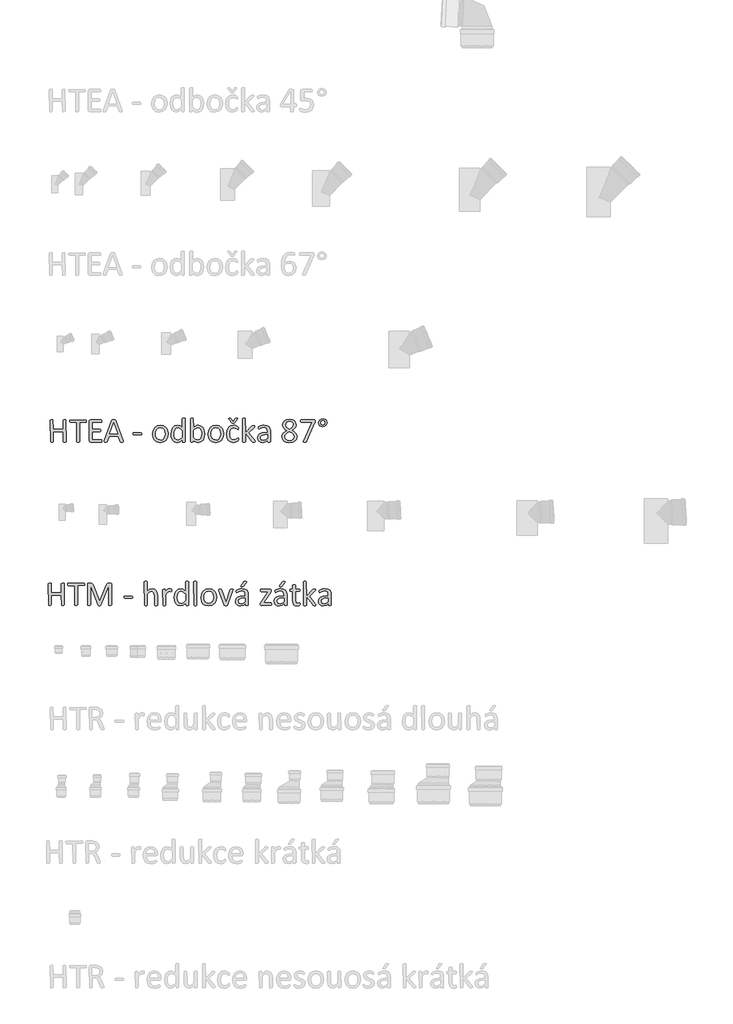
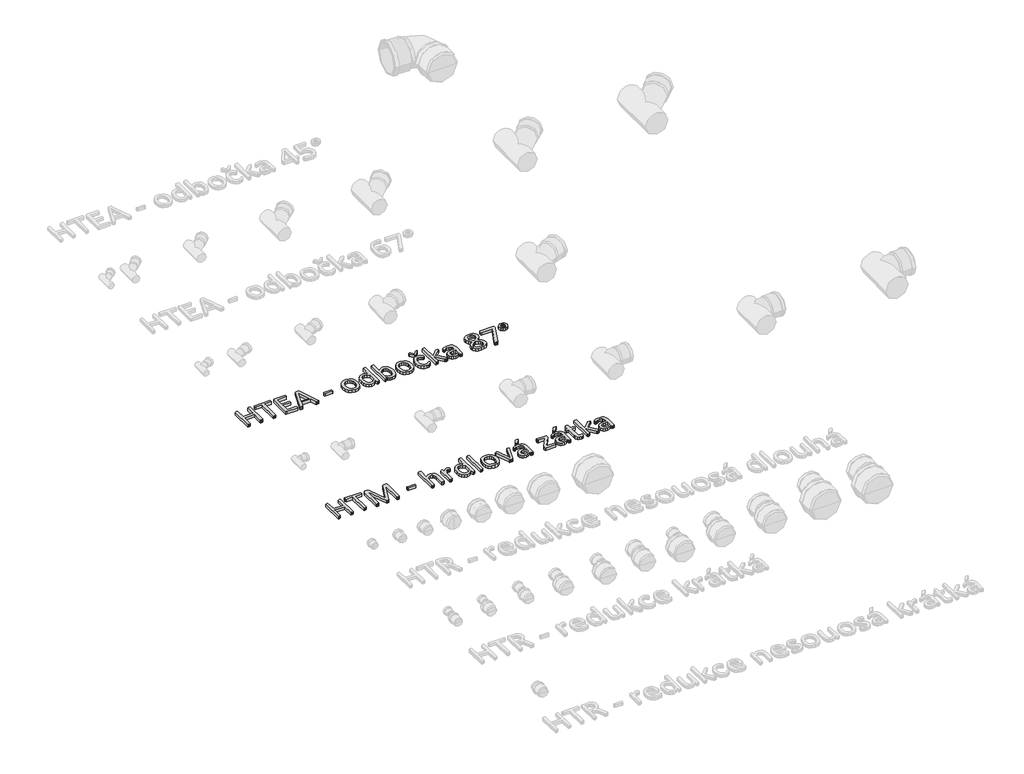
# One storey, part 22 of 26: 2 proxies.
"""IFC4 building model written with IfcOpenShell, lengths in millimetres."""

from ifc_helpers import new_model, si_unit, origin, origin_with_axes, place, context, project, spatial, polyline, outline, extrude, element, save

model = new_model("IFC4")

# Units and contexts
model_context = context("Model", 3, world=origin())
ifc_project = project(units=[si_unit("LENGTHUNIT", "METRE", prefix="MILLI")], contexts=[model_context])

# Site, building, storey
site = spatial("IfcSite", under=ifc_project)
building = spatial("IfcBuilding", under=site)
storey = spatial("IfcBuildingStorey", under=building, Name="Podlaží 1", Elevation=0.0)

# Proxies
placement = place(None, origin())
element("IfcBuildingElementProxy", 1, Name="120mm Arial", ObjectType="120mm Arial", at=placement, inside=storey, context=model_context, shape_type="SweptSolid", body=[
    extrude(outline(polyline([(-20460.0568259, 16129.2292998), (-20464.2728431, 16126.4970312), (-20468.1269704, 16126.2618027), (-20472.1077591, 16126.4970312), (-20474.5686103, 16127.039866), (-20476.2694928, 16181.848089), (-20529.5396837, 16181.848089), (-20529.5396837, 16129.1931108), (-20533.7376064, 16126.4970312), (-20537.6460171, 16126.2618027), (-20541.5182389, 16126.4970312), (-20544.0514681, 16127.0579605), (-20545.7523506, 16243.7312592), (-20541.5182389, 16246.4635278), (-20537.6460171, 16246.6987563), (-20533.7376064, 16246.4635278), (-20531.2405662, 16245.9025985), (-20529.5396837, 16195.7446605), (-20476.2694928, 16195.7446605), (-20476.2694928, 16243.7312592), (-20472.1077591, 16246.4635278), (-20468.1269704, 16246.6987563), (-20464.2728431, 16246.4635278), (-20461.7577084, 16245.9025985), (-20460.0568259, 16129.2292998)])), origin_with_axes(), (0.0, 0.0, 1.0), 15.0),
    extrude(outline(polyline([(-20351.2003487, 16239.6419035), (-20351.3812937, 16236.511556), (-20351.978412, 16234.3764057), (-20388.2578729, 16232.8021847), (-20388.2578729, 16129.2292998), (-20392.4557955, 16126.4970312), (-20396.3642063, 16126.2618027), (-20400.236428, 16126.4970312), (-20402.7696572, 16127.0579605), (-20404.4705397, 16232.8021847), (-20438.3796219, 16232.8021847), (-20441.2928354, 16236.511556), (-20441.5280639, 16239.6419035), (-20441.2928354, 16242.844629), (-20440.6776226, 16245.0883463), (-20354.3849797, 16246.6987563), (-20351.9965065, 16245.0883463), (-20351.3812937, 16242.844629), (-20351.2003487, 16239.6419035)])), origin_with_axes(), (0.0, 0.0, 1.0), 15.0),
    extrude(outline(polyline([(-20267.8209194, 16133.1738995), (-20268.0018643, 16130.0978355), (-20268.6532661, 16127.9084017), (-20269.7389357, 16126.6417871), (-20329.0164988, 16126.2618027), (-20333.0696655, 16127.7093623), (-20334.9876819, 16132.7758207), (-20334.9876819, 16240.1847383), (-20333.051571, 16245.2511967), (-20328.9441208, 16246.6987563), (-20271.0417393, 16246.6987563), (-20268.6713606, 16245.0521573), (-20268.0561478, 16242.8627235), (-20267.8209194, 16239.6057145), (-20268.0561478, 16236.547745), (-20268.6713606, 16234.3945002), (-20318.7750151, 16232.8021847), (-20318.7750151, 16195.7446605), (-20277.9538361, 16195.7446605), (-20275.5653629, 16194.0437781), (-20274.9501501, 16191.8543443), (-20274.7692051, 16188.5430518), (-20274.9501501, 16185.4488933), (-20275.5653629, 16183.349932), (-20318.7750151, 16181.848089), (-20318.7750151, 16140.1583743), (-20271.0779283, 16140.1583743), (-20268.6532661, 16138.5660588), (-20268.0018643, 16136.412814), (-20267.8209194, 16133.1738995)])), origin_with_axes(), (0.0, 0.0, 1.0), 15.0),
    extrude(outline(polyline([(-20152.7399361, 16132.5224977), (-20151.9618729, 16129.2292998), (-20152.6494637, 16127.2931889), (-20155.1103149, 16126.4427477), (-20159.6882219, 16126.2618027), (-20164.3023179, 16126.4065587), (-20166.8898306, 16126.8770155), (-20168.9887919, 16129.1569218), (-20179.2664646, 16158.6871364), (-20229.1710797, 16158.6871364), (-20238.9782956, 16129.5550007), (-20239.7382643, 16128.1074412), (-20241.0772569, 16127.0579605), (-20243.5742971, 16126.4427477), (-20247.8084087, 16126.2618027), (-20252.2053708, 16126.4970312), (-20254.6119386, 16127.3836614), (-20255.2633404, 16129.3016778), (-20254.4671826, 16132.5948757), (-20214.2250275, 16243.4055583), (-20213.2660193, 16245.0521573), (-20211.4927589, 16246.0473545), (-20208.5252618, 16246.5540003), (-20203.9473548, 16246.6987563), (-20199.0256523, 16246.5540003), (-20195.8591158, 16246.0473545), (-20194.0134774, 16245.0159683), (-20192.9820913, 16243.3331803), (-20152.7399361, 16132.5224977)]), holes=[polyline([(-20204.3816226, 16230.4860894), (-20225.154102, 16170.2676127), (-20183.4281983, 16170.2676127), (-20204.3816226, 16230.4860894)])]), origin_with_axes(), (0.0, 0.0, 1.0), 15.0),
    extrude(outline(polyline([(-20052.4240602, 16171.4618493), (-20053.2745014, 16166.9020368), (-20055.7534471, 16165.6354222), (-20095.3442005, 16165.6354222), (-20097.8955241, 16166.9382258), (-20098.7459654, 16171.4618493), (-20097.8955241, 16175.9492839), (-20095.3442005, 16177.2158985), (-20055.7534471, 16177.2158985), (-20052.6592886, 16174.1760234), (-20052.4240602, 16171.4618493)])), origin_with_axes(), (0.0, 0.0, 1.0), 15.0),
    extrude(outline(polyline([(-19911.1422493, 16171.1723374), (-19913.8202345, 16152.191213), (-19921.8360954, 16137.2451607), (-19935.1898321, 16127.4560394), (-19953.7728777, 16123.9457075), (-19971.686427, 16127.039866), (-19984.4249509, 16136.0328296), (-19992.0246385, 16150.363669), (-19994.5216787, 16169.4714549), (-19991.8798825, 16188.4525794), (-19983.9183051, 16203.3805371), (-19970.6188518, 16213.115375), (-19951.9996173, 16216.5895179), (-19934.0679735, 16213.4953594), (-19921.3294496, 16204.5023957), (-19913.693573, 16190.1715563), (-19911.1422493, 16171.1723374)]), holes=[polyline([(-19927.3549161, 16170.0866677), (-19928.6034362, 16182.6623412), (-19932.7108864, 16193.0485809), (-19940.4372355, 16200.1054337), (-19952.6148301, 16202.6929463), (-19964.1772119, 16200.3225676), (-19972.1387893, 16193.6276047), (-19976.7890743, 16183.386121), (-19978.3090119, 16170.4485576), (-19977.0604918, 16157.8005062), (-19972.9168526, 16147.4504555), (-19965.1362201, 16140.4297917), (-19952.9767199, 16137.842279), (-19941.4505271, 16140.2126578), (-19933.4346662, 16146.8533372), (-19928.8205702, 16157.0586319), (-19927.3549161, 16170.0866677)])]), origin_with_axes(), (0.0, 0.0, 1.0), 15.0),
    extrude(outline(polyline([(-19818.8241398, 16129.1569218), (-19822.2078102, 16126.4427477), (-19825.5191027, 16126.2618027), (-19828.9570566, 16126.4427477), (-19831.2007739, 16126.9132045), (-19832.8654673, 16139.2174606), (-19846.3096765, 16127.9807797), (-19861.5633352, 16123.9457075), (-19876.9798442, 16127.5465118), (-19887.3118004, 16137.2813497), (-19893.1020386, 16151.7207561), (-19894.9295825, 16169.181943), (-19892.6496762, 16188.8144693), (-19885.9185244, 16203.7605215), (-19874.8808829, 16213.260131), (-19859.6453188, 16216.5895179), (-19846.4906215, 16213.3506034), (-19834.7111057, 16203.850994), (-19834.7111057, 16252.9594513), (-19833.0464123, 16255.1669796), (-19830.5493721, 16255.7279089), (-19826.7133393, 16255.9631373), (-19822.6963616, 16255.7279089), (-19820.2536049, 16255.1669796), (-19818.9327068, 16254.2441604), (-19818.8241398, 16129.1569218)]), holes=[polyline([(-19834.7111057, 16187.3488152), (-19846.327771, 16198.7664411), (-19858.0168143, 16202.6929463), (-19867.6068962, 16199.9425832), (-19874.0123472, 16192.686691), (-19877.595057, 16182.4813963), (-19878.7169157, 16170.9190145), (-19877.776002, 16158.6871364), (-19874.5008985, 16148.0837628), (-19868.3125815, 16140.6469257), (-19858.6320271, 16137.842279), (-19852.9503559, 16138.6565313), (-19847.3410627, 16141.3526109), (-19841.3517851, 16146.2381244), (-19834.7111057, 16153.656867), (-19834.7111057, 16187.3488152)])]), origin_with_axes(), (0.0, 0.0, 1.0), 15.0),
    extrude(outline(polyline([(-19714.2741522, 16171.3532823), (-19716.5902475, 16151.6302836), (-19723.4118718, 16136.6842314), (-19734.4857023, 16127.2208109), (-19749.522227, 16123.9457075), (-19756.7600246, 16124.7418652), (-19763.2740426, 16127.3293779), (-19769.6433045, 16131.834907), (-19776.3744564, 16138.3851139), (-19776.3744564, 16128.9397879), (-19780.2647726, 16126.4427477), (-19783.648443, 16126.2618027), (-19786.97783, 16126.4427477), (-19789.2396418, 16126.9493935), (-19790.7052958, 16252.9956403), (-19786.5797511, 16255.7821924), (-19782.6351514, 16255.9631373), (-19778.6181737, 16255.7821924), (-19776.1754169, 16255.221263), (-19774.8907078, 16254.2803493), (-19774.492629, 16202.7291353), (-19767.4538707, 16209.1888698), (-19760.7770024, 16213.4591704), (-19754.2448899, 16215.8476436), (-19747.3508876, 16216.5895179), (-19732.133418, 16212.9344301), (-19721.8557453, 16203.1453087), (-19716.0836016, 16188.7601858), (-19714.2741522, 16171.3532823)]), holes=[polyline([(-19730.486819, 16169.5800219), (-19731.4277327, 16181.9023725), (-19734.7209307, 16192.4876516), (-19740.9273422, 16199.8882997), (-19750.5717076, 16202.6929463), (-19756.2171898, 16201.8786941), (-19761.8807665, 16199.16452), (-19767.8700441, 16194.297101), (-19774.492629, 16186.8059804), (-19774.492629, 16153.1864101), (-19762.8035857, 16141.7687843), (-19751.1869204, 16137.842279), (-19741.651122, 16140.6107367), (-19735.209482, 16147.9209123), (-19731.6086777, 16158.1262071), (-19730.486819, 16169.5800219)])]), origin_with_axes(), (0.0, 0.0, 1.0), 15.0),
    extrude(outline(polyline([(-19612.3659608, 16171.1723374), (-19615.0439459, 16152.191213), (-19623.0598069, 16137.2451607), (-19636.4135436, 16127.4560394), (-19654.9965892, 16123.9457075), (-19672.9101384, 16127.039866), (-19685.6486624, 16136.0328296), (-19693.2483499, 16150.363669), (-19695.7453901, 16169.4714549), (-19693.103594, 16188.4525794), (-19685.1420165, 16203.3805371), (-19671.8425633, 16213.115375), (-19653.2233287, 16216.5895179), (-19635.2916849, 16213.4953594), (-19622.553161, 16204.5023957), (-19614.9172845, 16190.1715563), (-19612.3659608, 16171.1723374)]), holes=[polyline([(-19628.5786276, 16170.0866677), (-19629.8271477, 16182.6623412), (-19633.9345979, 16193.0485809), (-19641.6609469, 16200.1054337), (-19653.8385415, 16202.6929463), (-19665.4009233, 16200.3225676), (-19673.3625008, 16193.6276047), (-19678.0127858, 16183.386121), (-19679.5327233, 16170.4485576), (-19678.2842032, 16157.8005062), (-19674.140564, 16147.4504555), (-19666.3599315, 16140.4297917), (-19654.2004314, 16137.842279), (-19642.6742386, 16140.2126578), (-19634.6583777, 16146.8533372), (-19630.0442816, 16157.0586319), (-19628.5786276, 16170.0866677)])]), origin_with_axes(), (0.0, 0.0, 1.0), 15.0),
    extrude(outline(polyline([(-19548.6733411, 16253.2851522), (-19547.5152935, 16254.5698613), (-19544.2220955, 16255.8364758), (-19541.3269765, 16255.9631373), (-19537.5452272, 16255.6555309), (-19535.7357778, 16254.7689007), (-19537.0928648, 16250.9690569), (-19552.038917, 16230.4860894), (-19553.2150592, 16229.3280418), (-19554.8073747, 16228.6585455), (-19557.1234699, 16228.2966556), (-19560.4709514, 16228.1699942), (-19563.6193933, 16228.2966556), (-19565.8450161, 16228.6947345), (-19567.3830481, 16229.4185143), (-19583.41477, 16250.9690569), (-19584.8080461, 16253.1946797), (-19582.9081242, 16255.6555309), (-19579.1444694, 16255.9631373), (-19576.0322164, 16255.8364758), (-19574.150389, 16255.3841135), (-19571.8342937, 16253.2851522), (-19560.2538174, 16237.1086743), (-19548.6733411, 16253.2851522)])), origin_with_axes(), (0.0, 0.0, 1.0), 15.0),
    extrude(outline(polyline([(-19531.3026267, 16142.9087374), (-19531.3930991, 16140.3755082), (-19531.7188, 16138.5660588), (-19533.7091944, 16134.9290655), (-19537.5995107, 16131.4006391), (-19543.7697332, 16127.6550788), (-19551.2065703, 16124.9770937), (-19559.5300377, 16123.9457075), (-19575.2360586, 16126.9493935), (-19586.6898735, 16135.7252232), (-19593.7286317, 16149.8751177), (-19596.153294, 16169.218132), (-19593.1857969, 16190.6601077), (-19585.061369, 16205.3347425), (-19572.9199634, 16213.8210603), (-19557.7929662, 16216.5895179), (-19550.1570896, 16215.7752656), (-19543.3535598, 16213.6401153), (-19537.8166446, 16210.6002403), (-19534.3063127, 16207.6508377), (-19532.8044697, 16205.7147269), (-19532.1168789, 16204.1766949), (-19531.754989, 16202.276773), (-19531.6645166, 16199.6168823), (-19532.4787688, 16194.8037468), (-19534.4510687, 16193.4285653), (-19537.5814162, 16194.8761248), (-19542.0507562, 16198.0607558), (-19548.6190576, 16201.2453868), (-19557.6843992, 16202.6929463), (-19567.2066268, 16200.593985), (-19574.2046725, 16194.297101), (-19578.5066385, 16184.0013338), (-19579.9406271, 16169.9057228), (-19578.4568786, 16155.9005843), (-19574.078011, 16145.8400455), (-19566.9668748, 16139.8145789), (-19557.3225094, 16137.842279), (-19548.2933567, 16139.669823), (-19541.5622049, 16143.6868007), (-19536.7671639, 16147.6494949), (-19533.7272889, 16149.4227553), (-19531.4292881, 16145.85814), (-19531.3026267, 16142.9087374)])), origin_with_axes(), (0.0, 0.0, 1.0), 15.0),
    extrude(outline(polyline([(-19440.9749115, 16129.1931108), (-19445.0461727, 16126.4427477), (-19449.045056, 16126.2618027), (-19453.1706006, 16126.4065587), (-19455.9209638, 16126.8589211), (-19457.7304132, 16127.7636458), (-19458.9970278, 16129.1931108), (-19494.2451025, 16174.7550473), (-19494.2451025, 16129.0845438), (-19498.3706472, 16126.4427477), (-19502.3876249, 16126.2618027), (-19506.3322247, 16126.4427477), (-19508.8292649, 16127.003677), (-19510.4577693, 16252.9956403), (-19506.3322247, 16255.7821924), (-19502.3876249, 16255.9631373), (-19498.3706472, 16255.7821924), (-19495.9278905, 16255.221263), (-19494.6431814, 16254.2803493), (-19494.2451025, 16176.8540086), (-19462.0369028, 16211.0887916), (-19460.4264928, 16212.5906347), (-19458.3999095, 16213.5858318), (-19455.6133574, 16214.1286667), (-19451.7230411, 16214.2734226), (-19447.7422524, 16214.1286667), (-19445.1547397, 16213.6763043), (-19443.7252747, 16212.8620521), (-19443.9243141, 16209.3336257), (-19446.0413699, 16206.782302), (-19478.0324357, 16176.9625755), (-19443.2548178, 16133.4996004), (-19441.4996519, 16130.9844657), (-19440.9749115, 16129.1931108)])), origin_with_axes(), (0.0, 0.0, 1.0), 15.0),
    extrude(outline(polyline([(-19359.9115774, 16129.0483549), (-19360.7077352, 16127.3655669), (-19362.8790745, 16126.5332202), (-19366.9322412, 16126.2618027), (-19371.0396914, 16126.5332202), (-19373.2653142, 16127.3655669), (-19373.9529049, 16129.0483549), (-19373.9529049, 16137.3718222), (-19386.148594, 16127.7455513), (-19400.4070555, 16123.9457075), (-19412.3675162, 16125.6646844), (-19421.4690468, 16130.6406703), (-19427.3135684, 16138.6384368), (-19429.3944352, 16149.4227553), (-19426.5174107, 16161.6908224), (-19418.2663213, 16170.3399907), (-19405.111624, 16175.4969215), (-19387.5961536, 16177.2158985), (-19376.1242443, 16177.2158985), (-19376.1242443, 16184.1279953), (-19377.1375359, 16193.1752424), (-19380.3945449, 16199.7254493), (-19386.2028775, 16203.670049), (-19394.9787072, 16205.0090416), (-19405.0211515, 16203.561482), (-19412.801784, 16200.3768511), (-19418.3929827, 16197.1922201), (-19421.7223697, 16195.7446605), (-19424.5812998, 16199.2730869), (-19424.7622447, 16201.9329776), (-19424.4365438, 16205.7328214), (-19422.8442283, 16208.392712), (-19418.5015497, 16211.1068861), (-19411.408508, 16213.7848713), (-19402.6326783, 16215.7933601), (-19393.0245019, 16216.5895179), (-19377.6441818, 16214.54484), (-19367.3846035, 16208.5736569), (-19361.6848379, 16198.8207246), (-19359.9115774, 16185.2136649), (-19359.9115774, 16129.0483549)]), holes=[polyline([(-19376.1242443, 16165.6354222), (-19389.0075241, 16165.6354222), (-19399.7556537, 16164.567847), (-19407.3372468, 16161.419405), (-19411.7703979, 16156.4253246), (-19413.1817684, 16149.7122673), (-19409.1286017, 16139.3622166), (-19397.7652593, 16135.5261838), (-19386.7638069, 16138.5841533), (-19376.1242443, 16147.9390068), (-19376.1242443, 16165.6354222)])]), origin_with_axes(), (0.0, 0.0, 1.0), 15.0),
    extrude(outline(polyline([(-19216.3136713, 16156.913876), (-19219.1002234, 16142.8725484), (-19227.1341789, 16132.4863088), (-19240.1079312, 16126.0989523), (-19257.7862521, 16123.9457075), (-19274.4150922, 16125.9180074), (-19286.8641043, 16131.7444345), (-19294.6809258, 16141.2259495), (-19297.3770054, 16154.0911349), (-19295.495178, 16164.604036), (-19290.1030187, 16173.4341492), (-19281.4538505, 16180.9976478), (-19269.8371852, 16187.7107051), (-19279.5901176, 16193.8447387), (-19286.7555373, 16200.8834969), (-19291.2248774, 16209.0079248), (-19292.7448149, 16218.3989673), (-19290.5010976, 16230.3775225), (-19283.6975678, 16240.0942659), (-19272.098997, 16246.6263783), (-19255.6872907, 16249.0148515), (-19240.1079312, 16246.8073232), (-19229.2693292, 16240.7999512), (-19222.9724452, 16231.825082), (-19220.9458618, 16220.7512516), (-19222.4657993, 16211.5592485), (-19226.9170449, 16203.1995922), (-19234.1367481, 16195.8170385), (-19243.9258695, 16189.3753986), (-19232.1282593, 16182.6442467), (-19223.4609965, 16175.1712206), (-19218.1412152, 16166.7210918), (-19216.3136713, 16156.913876)]), holes=[polyline([(-19237.1585287, 16219.8103379), (-19238.4613322, 16227.138608), (-19242.261176, 16232.7298067), (-19248.4675875, 16236.2401386), (-19256.9177163, 16237.4343752), (-19271.5742567, 16232.7117122), (-19276.5321481, 16219.8103379), (-19275.319817, 16212.8620521), (-19271.5561622, 16206.746113), (-19265.1145222, 16201.1006308), (-19255.8682357, 16195.3827707), (-19241.9897586, 16206.4385066), (-19237.1585287, 16219.8103379)]), polyline([(-19232.5263381, 16154.6339697), (-19234.1005591, 16162.6317361), (-19238.8775056, 16169.3447935), (-19246.8571776, 16175.406449), (-19257.967197, 16181.4861991), (-19268.2086807, 16175.5331105), (-19275.4464784, 16169.3809825), (-19279.7167791, 16162.7222086), (-19281.1643386, 16154.9958596), (-19279.621783, 16146.7492938), (-19274.9941161, 16140.6107367), (-19267.2994324, 16136.797322), (-19256.5558265, 16135.5261838), (-19246.1333978, 16136.8108929), (-19238.6060882, 16140.6650201), (-19234.0462756, 16146.7266757), (-19232.5263381, 16154.6339697)])]), origin_with_axes(), (0.0, 0.0, 1.0), 15.0),
    extrude(outline(polyline([(-19119.0376704, 16239.8952264), (-19119.1824263, 16236.8915404), (-19119.5624107, 16234.3040277), (-19120.2138125, 16231.9155545), (-19121.1728207, 16229.4727978), (-19164.6719848, 16129.8807016), (-19165.8300324, 16128.0712522), (-19167.6032929, 16126.967488), (-19170.353656, 16126.4065587), (-19174.4430117, 16126.2618027), (-19179.4009031, 16126.5332202), (-19181.9703213, 16127.4198504), (-19182.6760066, 16128.9035989), (-19182.0065103, 16131.0025602), (-19136.2998179, 16232.8021847), (-19194.2383884, 16232.8021847), (-19196.898279, 16234.6478231), (-19197.7849092, 16239.7866595), (-19197.5496808, 16242.844629), (-19196.8439955, 16244.9978738), (-19195.7221369, 16246.2825829), (-19123.8869948, 16246.6987563), (-19121.6070886, 16246.4273389), (-19120.1052455, 16245.3235747), (-19119.3090878, 16243.2065189), (-19119.0376704, 16239.8952264)])), origin_with_axes(), (0.0, 0.0, 1.0), 15.0),
    extrude(outline(polyline([(-19054.1870031, 16230.8479793), (-19055.942169, 16222.5787955), (-19060.881966, 16215.7933601), (-19068.3730866, 16211.2516421), (-19077.7098456, 16209.6412321), (-19086.9018487, 16211.1249806), (-19094.0672684, 16215.3048088), (-19098.8080259, 16221.7645432), (-19100.5089083, 16230.1241996), (-19098.6994589, 16238.6286118), (-19093.723473, 16245.3235747), (-19086.2866359, 16249.7205368), (-19076.9860658, 16251.3309468), (-19067.8483462, 16249.8110093), (-19060.6286431, 16245.6311811), (-19055.8878856, 16239.2076357), (-19054.1870031, 16230.8479793)]), holes=[polyline([(-19065.7674794, 16230.5222784), (-19066.6360151, 16235.11828), (-19069.0606774, 16238.7914623), (-19072.7700487, 16241.19803), (-19077.4565227, 16242.0665657), (-19081.9801462, 16241.19803), (-19085.6352341, 16238.7914623), (-19088.0598963, 16235.1725634), (-19088.928432, 16230.7032234), (-19088.0598963, 16225.8900879), (-19085.5809506, 16222.1807166), (-19081.7811068, 16219.7741489), (-19077.0584438, 16218.9056131), (-19072.6252927, 16219.8103379), (-19069.0244884, 16222.3073781), (-19066.6360151, 16225.9805604), (-19065.7674794, 16230.5222784)])]), origin_with_axes(), (0.0, 0.0, 1.0), 15.0),
])
element("IfcBuildingElementProxy", 2, Name="120mm Arial", ObjectType="120mm Arial", at=placement, inside=storey, context=model_context, shape_type="SweptSolid", body=[
    extrude(outline(polyline([(-20470.0657483, 15249.4500985), (-20474.2817655, 15246.7178299), (-20478.1358927, 15246.4826015), (-20482.1166815, 15246.7178299), (-20484.5775327, 15247.2606647), (-20486.2784151, 15302.0688877), (-20539.5486061, 15302.0688877), (-20539.5486061, 15249.4139095), (-20543.7465288, 15246.7178299), (-20547.6549395, 15246.4826015), (-20551.5271613, 15246.7178299), (-20554.0603905, 15247.2787592), (-20555.7612729, 15363.9520579), (-20551.5271613, 15366.6843266), (-20547.6549395, 15366.919555), (-20543.7465288, 15366.6843266), (-20541.2494886, 15366.1233972), (-20539.5486061, 15315.9654593), (-20486.2784151, 15315.9654593), (-20486.2784151, 15363.9520579), (-20482.1166815, 15366.6843266), (-20478.1358927, 15366.919555), (-20474.2817655, 15366.6843266), (-20471.7666308, 15366.1233972), (-20470.0657483, 15249.4500985)])), origin_with_axes(), (0.0, 0.0, 1.0), 15.0),
    extrude(outline(polyline([(-20361.2092711, 15359.8627022), (-20361.390216, 15356.7323547), (-20361.9873343, 15354.5972044), (-20398.2667952, 15353.0229834), (-20398.2667952, 15249.4500985), (-20402.4647179, 15246.7178299), (-20406.3731287, 15246.4826015), (-20410.2453504, 15246.7178299), (-20412.7785796, 15247.2787592), (-20414.4794621, 15353.0229834), (-20448.3885442, 15353.0229834), (-20451.3017578, 15356.7323547), (-20451.5369862, 15359.8627022), (-20451.3017578, 15363.0654277), (-20450.686545, 15365.309145), (-20364.3939021, 15366.919555), (-20362.0054288, 15365.309145), (-20361.390216, 15363.0654277), (-20361.2092711, 15359.8627022)])), origin_with_axes(), (0.0, 0.0, 1.0), 15.0),
    extrude(outline(polyline([(-20215.2952697, 15249.4500985), (-20217.0323411, 15247.2787592), (-20219.5112869, 15246.7178299), (-20223.4377921, 15246.4826015), (-20227.2919194, 15246.7178299), (-20229.8251486, 15247.2787592), (-20231.5079365, 15353.8553302), (-20272.9081393, 15248.9796417), (-20275.1880456, 15247.0978143), (-20277.5041408, 15246.6273574), (-20280.6887718, 15246.4826015), (-20284.0362532, 15246.6635464), (-20286.370443, 15247.1701922), (-20287.8180025, 15247.96635), (-20328.7115595, 15353.8553302), (-20328.7115595, 15249.4500985), (-20330.5210089, 15247.2787592), (-20333.0542381, 15246.7178299), (-20337.0350268, 15246.4826015), (-20340.9072486, 15246.7178299), (-20343.3861943, 15247.2787592), (-20344.9966043, 15359.6817573), (-20342.9157374, 15365.2548615), (-20338.2654524, 15366.919555), (-20328.3858586, 15366.919555), (-20323.0660773, 15366.3586257), (-20319.0852885, 15364.6034597), (-20316.244453, 15361.5454902), (-20314.2359641, 15357.1847171), (-20280.145937, 15270.3673338), (-20245.0426182, 15356.9313942), (-20242.7627119, 15361.6540572), (-20240.0485378, 15364.7482157), (-20236.7734343, 15366.4129091), (-20232.5936062, 15366.919555), (-20222.2435555, 15366.919555), (-20219.5112869, 15366.5033816), (-20217.3399476, 15365.200578), (-20215.8742935, 15362.9749552), (-20215.2952697, 15359.6817573), (-20215.2952697, 15249.4500985)])), origin_with_axes(), (0.0, 0.0, 1.0), 15.0),
    extrude(outline(polyline([(-20101.806602, 15291.682648), (-20102.6570432, 15287.1228355), (-20105.1359889, 15285.8562209), (-20144.7267423, 15285.8562209), (-20147.2780659, 15287.1590245), (-20148.1285072, 15291.682648), (-20147.2780659, 15296.1700826), (-20144.7267423, 15297.4366972), (-20105.1359889, 15297.4366972), (-20102.0418304, 15294.3968222), (-20101.806602, 15291.682648)])), origin_with_axes(), (0.0, 0.0, 1.0), 15.0),
    extrude(outline(polyline([(-19967.4730769, 15249.3415316), (-19971.5986216, 15246.6635464), (-19975.5432213, 15246.4826015), (-19979.560199, 15246.6635464), (-19982.0029557, 15247.2063812), (-19983.6857437, 15297.6900201), (-19984.7533189, 15309.0533625), (-19987.8474774, 15316.4901996), (-19993.1129752, 15321.2671461), (-20000.5860013, 15322.913745), (-20011.5693593, 15318.8786728), (-20023.0593631, 15307.0267791), (-20023.0593631, 15249.3415316), (-20027.1849078, 15246.6635464), (-20031.2018855, 15246.4826015), (-20035.1464853, 15246.6635464), (-20037.6435255, 15247.2244757), (-20039.2720299, 15373.216439), (-20035.1464853, 15376.0029911), (-20031.2018855, 15376.183936), (-20027.1849078, 15376.0029911), (-20024.7421511, 15375.4420618), (-20023.457442, 15374.5011481), (-20023.0593631, 15323.130879), (-20010.0313273, 15333.4447407), (-19996.8223465, 15336.8103166), (-19982.9981529, 15333.9875755), (-19973.9328113, 15326.4421714), (-19968.9749199, 15315.3864354), (-19967.4730769, 15300.0784933), (-19967.4730769, 15249.3415316)])), origin_with_axes(), (0.0, 0.0, 1.0), 15.0),
    extrude(outline(polyline([(-19891.0419333, 15327.5459356), (-19891.1324058, 15324.2527376), (-19891.4942957, 15322.1175873), (-19895.0408165, 15320.9052562), (-19897.3750063, 15321.7376029), (-19900.2882198, 15322.5337607), (-19903.7804572, 15322.913745), (-19908.1955138, 15321.9185479), (-19912.7372319, 15318.6615389), (-19917.7132178, 15312.6541668), (-19923.4672669, 15303.4802583), (-19923.4672669, 15249.3053426), (-19927.5928116, 15246.6635464), (-19931.6097893, 15246.4826015), (-19935.5543891, 15246.6635464), (-19938.0514293, 15247.2063812), (-19939.6799338, 15331.6714802), (-19935.952468, 15334.3494654), (-19932.2973801, 15334.4942213), (-19928.7146703, 15334.3494654), (-19926.507142, 15333.8066306), (-19925.0233934, 15319.6567361), (-19918.7626984, 15328.2335263), (-19913.2076887, 15333.4628352), (-19908.0326634, 15336.0865368), (-19902.8395435, 15336.8103166), (-19900.1977474, 15336.6836551), (-19897.0854944, 15336.1951038), (-19894.1541863, 15335.3808516), (-19892.3085479, 15334.4942213), (-19891.0781223, 15330.8029445), (-19891.0419333, 15327.5459356)])), origin_with_axes(), (0.0, 0.0, 1.0), 15.0),
    extrude(outline(polyline([(-19801.0399191, 15249.3777205), (-19804.4235895, 15246.6635464), (-19807.7348819, 15246.4826015), (-19811.1728358, 15246.6635464), (-19813.4165531, 15247.1340033), (-19815.0812466, 15259.4382593), (-19828.5254558, 15248.2015784), (-19843.7791144, 15244.1665062), (-19859.1956235, 15247.7673106), (-19869.5275797, 15257.5021484), (-19875.3178178, 15271.9415548), (-19877.1453617, 15289.4027418), (-19874.8654555, 15309.035268), (-19868.1343036, 15323.9813202), (-19857.0966621, 15333.4809297), (-19841.861098, 15336.8103166), (-19828.7064007, 15333.5714021), (-19816.926885, 15324.0717927), (-19816.926885, 15373.18025), (-19815.2621915, 15375.3877783), (-19812.7651513, 15375.9487076), (-19808.9291185, 15376.183936), (-19804.9121408, 15375.9487076), (-19802.4693841, 15375.3877783), (-19801.148486, 15374.4649591), (-19801.0399191, 15249.3777205)]), holes=[polyline([(-19816.926885, 15307.5696139), (-19828.5435503, 15318.9872398), (-19840.2325935, 15322.913745), (-19849.8226755, 15320.1633819), (-19856.2281264, 15312.9074897), (-19859.8108363, 15302.702195), (-19860.9326949, 15291.1398132), (-19859.9917812, 15278.9079351), (-19856.7166778, 15268.3045615), (-19850.5283607, 15260.8677244), (-19840.8478063, 15258.0630778), (-19835.1661352, 15258.87733), (-19829.5568419, 15261.5734096), (-19823.5675644, 15266.4589231), (-19816.926885, 15273.8776657), (-19816.926885, 15307.5696139)])]), origin_with_axes(), (0.0, 0.0, 1.0), 15.0),
    extrude(outline(polyline([(-19756.7084082, 15249.3415316), (-19760.8339529, 15246.6635464), (-19764.8509306, 15246.4826015), (-19768.7955304, 15246.6635464), (-19771.2925706, 15247.2244757), (-19772.921075, 15373.216439), (-19768.7955304, 15376.0029911), (-19764.8509306, 15376.183936), (-19760.8339529, 15376.0029911), (-19758.3911962, 15375.4420618), (-19756.7084082, 15249.3415316)])), origin_with_axes(), (0.0, 0.0, 1.0), 15.0),
    extrude(outline(polyline([(-19650.1680263, 15291.3931361), (-19652.8460114, 15272.4120117), (-19660.8618723, 15257.4659595), (-19674.2156091, 15247.6768381), (-19692.7986546, 15244.1665062), (-19710.7122039, 15247.2606647), (-19723.4507278, 15256.2536283), (-19731.0504154, 15270.5844678), (-19733.5474556, 15289.6922537), (-19730.9056595, 15308.6733781), (-19722.944082, 15323.6013358), (-19709.6446288, 15333.3361737), (-19691.0253942, 15336.8103166), (-19673.0937504, 15333.7161581), (-19660.3552265, 15324.7231945), (-19652.7193499, 15310.392355), (-19650.1680263, 15291.3931361)]), holes=[polyline([(-19666.3806931, 15290.3074665), (-19667.6292132, 15302.8831399), (-19671.7366634, 15313.2693796), (-19679.4630124, 15320.3262324), (-19691.640607, 15322.913745), (-19703.2029888, 15320.5433663), (-19711.1645663, 15313.8484034), (-19715.8148513, 15303.6069197), (-19717.3347888, 15290.6693563), (-19716.0862687, 15278.0213049), (-19711.9426295, 15267.6712542), (-19704.161997, 15260.6505904), (-19692.0024969, 15258.0630778), (-19680.4763041, 15260.4334565), (-19672.4604431, 15267.0741359), (-19667.8463471, 15277.2794306), (-19666.3806931, 15290.3074665)])]), origin_with_axes(), (0.0, 0.0, 1.0), 15.0),
    extrude(outline(polyline([(-19560.8083666, 15332.9019059), (-19589.2981477, 15249.7757994), (-19590.2752504, 15248.1292004), (-19592.0846998, 15247.1340033), (-19595.1426693, 15246.6273574), (-19599.7929544, 15246.4826015), (-19604.4070504, 15246.6635464), (-19607.4288309, 15247.2063812), (-19609.2382803, 15248.2196729), (-19610.251572, 15249.7757994), (-19638.6237389, 15328.0163924), (-19639.2208573, 15329.9163143), (-19635.6200529, 15334.4037489), (-19632.0373431, 15334.4942213), (-19627.7308534, 15334.3494654), (-19625.2338132, 15333.8428196), (-19623.1348519, 15331.5629133), (-19599.5758204, 15263.672371), (-19575.6548991, 15331.5629133), (-19573.6825992, 15333.8428196), (-19571.257937, 15334.3494654), (-19567.2228648, 15334.4942213), (-19563.6944384, 15334.4037489), (-19560.8083666, 15332.9019059)])), origin_with_axes(), (0.0, 0.0, 1.0), 15.0),
    extrude(outline(polyline([(-19504.2902139, 15372.8907381), (-19502.9512213, 15374.4830536), (-19501.0874884, 15375.4601563), (-19498.3552198, 15376.0029911), (-19494.446809, 15376.183936), (-19490.1041304, 15375.8763296), (-19487.7880351, 15374.9896994), (-19488.0413581, 15372.0583913), (-19505.3396945, 15351.249723), (-19506.7329706, 15349.8202579), (-19508.1624356, 15348.9698167), (-19510.261397, 15348.5174544), (-19513.4822169, 15348.3907929), (-19516.8116039, 15348.6622103), (-19518.5486753, 15349.3859901), (-19518.1505964, 15352.2268257), (-19504.2902139, 15372.8907381)])), origin_with_axes(), (0.0, 0.0, 1.0), 15.0),
    extrude(outline(polyline([(-19478.776977, 15249.2691536), (-19479.5731348, 15247.5863656), (-19481.7444741, 15246.7540189), (-19485.7976408, 15246.4826015), (-19489.905091, 15246.7540189), (-19492.1307138, 15247.5863656), (-19492.8183045, 15249.2691536), (-19492.8183045, 15257.5926209), (-19505.0139936, 15247.96635), (-19519.2724551, 15244.1665062), (-19531.2329158, 15245.8854832), (-19540.3344464, 15250.8614691), (-19546.178968, 15258.8592355), (-19548.2598348, 15269.6435541), (-19545.3828102, 15281.9116211), (-19537.1317209, 15290.5607894), (-19523.9770236, 15295.7177202), (-19506.4615532, 15297.4366972), (-19494.9896438, 15297.4366972), (-19494.9896438, 15304.348794), (-19496.0029355, 15313.3960411), (-19499.2599445, 15319.946248), (-19505.0682771, 15323.8908477), (-19513.8441068, 15325.2298403), (-19523.8865511, 15323.7822808), (-19531.6671836, 15320.5976498), (-19537.2583823, 15317.4130188), (-19540.5877693, 15315.9654593), (-19543.4466994, 15319.4938856), (-19543.6276443, 15322.1537763), (-19543.3019434, 15325.9536201), (-19541.7096279, 15328.6135107), (-19537.3669493, 15331.3276849), (-19530.2739076, 15334.00567), (-19521.4980779, 15336.0141589), (-19511.8899014, 15336.8103166), (-19496.5095814, 15334.7656388), (-19486.2500031, 15328.7944557), (-19480.5502375, 15319.0415233), (-19478.776977, 15305.4344636), (-19478.776977, 15249.2691536)]), holes=[polyline([(-19494.9896438, 15285.8562209), (-19507.8729237, 15285.8562209), (-19518.6210533, 15284.7886457), (-19526.2026464, 15281.6402037), (-19530.6357975, 15276.6461233), (-19532.047168, 15269.933066), (-19527.9940013, 15259.5830153), (-19516.6306589, 15255.7469825), (-19505.6292064, 15258.804952), (-19494.9896438, 15268.1598055), (-19494.9896438, 15285.8562209)])]), origin_with_axes(), (0.0, 0.0, 1.0), 15.0),
    extrude(outline(polyline([(-19353.707833, 15253.4670762), (-19353.9973449, 15250.2281618), (-19354.6668412, 15248.0206335), (-19409.4026862, 15246.4826015), (-19412.6596951, 15247.857783), (-19413.9263097, 15252.4537846), (-19413.9263097, 15255.7831715), (-19413.7453648, 15258.2440227), (-19413.1844355, 15260.3972675), (-19412.1349548, 15262.6952683), (-19410.5245448, 15265.4818204), (-19373.0689418, 15320.5976498), (-19409.4026862, 15320.5976498), (-19411.8092539, 15322.2442488), (-19412.6958841, 15327.5821246), (-19412.5149392, 15330.748661), (-19411.8997264, 15332.9561893), (-19410.8502457, 15334.150426), (-19360.6923077, 15334.4942213), (-19358.8466693, 15334.2047094), (-19357.4895823, 15333.2276067), (-19356.5848576, 15331.4543463), (-19356.2410622, 15328.7039832), (-19356.2410622, 15325.5917302), (-19356.4401016, 15323.0404065), (-19357.0191254, 15320.7424057), (-19358.0505116, 15318.335838), (-19359.6428271, 15315.4950024), (-19396.9536742, 15260.379173), (-19357.1095979, 15260.379173), (-19353.9973449, 15256.7240852), (-19353.707833, 15253.4670762)])), origin_with_axes(), (0.0, 0.0, 1.0), 15.0),
    extrude(outline(polyline([(-19295.8416405, 15372.8907381), (-19294.5026479, 15374.4830536), (-19292.638915, 15375.4601563), (-19289.9066464, 15376.0029911), (-19285.9982356, 15376.183936), (-19281.655557, 15375.8763296), (-19279.3394617, 15374.9896994), (-19279.5927847, 15372.0583913), (-19296.8911211, 15351.249723), (-19298.2843972, 15349.8202579), (-19299.7138622, 15348.9698167), (-19301.8128236, 15348.5174544), (-19305.0336435, 15348.3907929), (-19308.3630305, 15348.6622103), (-19310.1001019, 15349.3859901), (-19309.702023, 15352.2268257), (-19295.8416405, 15372.8907381)])), origin_with_axes(), (0.0, 0.0, 1.0), 15.0),
    extrude(outline(polyline([(-19270.3284036, 15249.2691536), (-19271.1245614, 15247.5863656), (-19273.2959007, 15246.7540189), (-19277.3490674, 15246.4826015), (-19281.4565176, 15246.7540189), (-19283.6821404, 15247.5863656), (-19284.3697311, 15249.2691536), (-19284.3697311, 15257.5926209), (-19296.5654202, 15247.96635), (-19310.8238817, 15244.1665062), (-19322.7843424, 15245.8854832), (-19331.885873, 15250.8614691), (-19337.7303946, 15258.8592355), (-19339.8112614, 15269.6435541), (-19336.9342368, 15281.9116211), (-19328.6831475, 15290.5607894), (-19315.5284502, 15295.7177202), (-19298.0129798, 15297.4366972), (-19286.5410704, 15297.4366972), (-19286.5410704, 15304.348794), (-19287.5543621, 15313.3960411), (-19290.8113711, 15319.946248), (-19296.6197037, 15323.8908477), (-19305.3955334, 15325.2298403), (-19315.4379777, 15323.7822808), (-19323.2186102, 15320.5976498), (-19328.8098089, 15317.4130188), (-19332.1391959, 15315.9654593), (-19334.998126, 15319.4938856), (-19335.1790709, 15322.1537763), (-19334.85337, 15325.9536201), (-19333.2610545, 15328.6135107), (-19328.9183759, 15331.3276849), (-19321.8253342, 15334.00567), (-19313.0495045, 15336.0141589), (-19303.441328, 15336.8103166), (-19288.061008, 15334.7656388), (-19277.8014297, 15328.7944557), (-19272.1016641, 15319.0415233), (-19270.3284036, 15305.4344636), (-19270.3284036, 15249.2691536)]), holes=[polyline([(-19286.5410704, 15285.8562209), (-19299.4243503, 15285.8562209), (-19310.1724799, 15284.7886457), (-19317.754073, 15281.6402037), (-19322.1872241, 15276.6461233), (-19323.5985946, 15269.933066), (-19319.5454279, 15259.5830153), (-19308.1820855, 15255.7469825), (-19297.180633, 15258.804952), (-19286.5410704, 15268.1598055), (-19286.5410704, 15285.8562209)])]), origin_with_axes(), (0.0, 0.0, 1.0), 15.0),
    extrude(outline(polyline([(-19200.8455458, 15254.8060688), (-19201.2074357, 15250.2824452), (-19202.3111999, 15247.821594), (-19204.5187281, 15246.3378455), (-19207.8662096, 15245.1978924), (-19211.8650928, 15244.4560181), (-19216.08111, 15244.1665062), (-19227.1006569, 15245.9216721), (-19234.609872, 15251.2233589), (-19238.8801727, 15260.2163226), (-19240.2191652, 15273.081508), (-19240.2191652, 15322.913745), (-19251.2206177, 15322.913745), (-19253.3376735, 15324.2708321), (-19254.1157368, 15328.6677942), (-19253.8986029, 15331.3638738), (-19253.3376735, 15333.1914178), (-19240.2191652, 15334.4942213), (-19240.2191652, 15354.6514879), (-19238.5906608, 15356.8590162), (-19236.0936206, 15357.474229), (-19232.1490208, 15357.6551739), (-19228.1320431, 15357.474229), (-19225.6892864, 15356.8590162), (-19224.4045773, 15355.863819), (-19224.0064984, 15334.4942213), (-19203.7406649, 15334.4942213), (-19201.0264908, 15331.3638738), (-19200.8455458, 15328.6677942), (-19201.6417036, 15324.2708321), (-19203.7406649, 15322.913745), (-19224.0064984, 15322.913745), (-19224.0064984, 15275.7233041), (-19221.5999307, 15262.5324178), (-19212.9688569, 15258.0630778), (-19209.3680526, 15258.4792511), (-19206.563406, 15259.3477869), (-19204.4463502, 15260.2344171), (-19202.8721292, 15260.6686849), (-19201.0264908, 15257.7373769), (-19200.8455458, 15254.8060688)])), origin_with_axes(), (0.0, 0.0, 1.0), 15.0),
    extrude(outline(polyline([(-19112.8339259, 15249.4139095), (-19116.9051871, 15246.6635464), (-19120.9040704, 15246.4826015), (-19125.029615, 15246.6273574), (-19127.7799782, 15247.0797198), (-19129.5894276, 15247.9844445), (-19130.8560422, 15249.4139095), (-19166.1041169, 15294.975846), (-19166.1041169, 15249.3053426), (-19170.2296616, 15246.6635464), (-19174.2466393, 15246.4826015), (-19178.1912391, 15246.6635464), (-19180.6882793, 15247.2244757), (-19182.3167837, 15373.216439), (-19178.1912391, 15376.0029911), (-19174.2466393, 15376.183936), (-19170.2296616, 15376.0029911), (-19167.7869049, 15375.4420618), (-19166.5021958, 15374.5011481), (-19166.1041169, 15297.0748073), (-19133.8959172, 15331.3095904), (-19132.2855072, 15332.8114334), (-19130.2589239, 15333.8066306), (-19127.4723718, 15334.3494654), (-19123.5820555, 15334.4942213), (-19119.6012668, 15334.3494654), (-19117.0137541, 15333.897103), (-19115.5842891, 15333.0828508), (-19115.7833285, 15329.5544244), (-19117.9003843, 15327.0031007), (-19149.8914501, 15297.1833743), (-19115.1138322, 15253.7203992), (-19113.3586663, 15251.2052645), (-19112.8339259, 15249.4139095)])), origin_with_axes(), (0.0, 0.0, 1.0), 15.0),
    extrude(outline(polyline([(-19031.7705918, 15249.2691536), (-19032.5667496, 15247.5863656), (-19034.7380889, 15246.7540189), (-19038.7912556, 15246.4826015), (-19042.8987058, 15246.7540189), (-19045.1243286, 15247.5863656), (-19045.8119194, 15249.2691536), (-19045.8119194, 15257.5926209), (-19058.0076085, 15247.96635), (-19072.2660699, 15244.1665062), (-19084.2265306, 15245.8854832), (-19093.3280612, 15250.8614691), (-19099.1725828, 15258.8592355), (-19101.2534496, 15269.6435541), (-19098.3764251, 15281.9116211), (-19090.1253357, 15290.5607894), (-19076.9706384, 15295.7177202), (-19059.455168, 15297.4366972), (-19047.9832587, 15297.4366972), (-19047.9832587, 15304.348794), (-19048.9965503, 15313.3960411), (-19052.2535593, 15319.946248), (-19058.0618919, 15323.8908477), (-19066.8377216, 15325.2298403), (-19076.8801659, 15323.7822808), (-19084.6607984, 15320.5976498), (-19090.2519972, 15317.4130188), (-19093.5813841, 15315.9654593), (-19096.4403142, 15319.4938856), (-19096.6212591, 15322.1537763), (-19096.2955582, 15325.9536201), (-19094.7032427, 15328.6135107), (-19090.3605641, 15331.3276849), (-19083.2675224, 15334.00567), (-19074.4916927, 15336.0141589), (-19064.8835163, 15336.8103166), (-19049.5031962, 15334.7656388), (-19039.243618, 15328.7944557), (-19033.5438523, 15319.0415233), (-19031.7705918, 15305.4344636), (-19031.7705918, 15249.2691536)]), holes=[polyline([(-19047.9832587, 15285.8562209), (-19060.8665385, 15285.8562209), (-19071.6146681, 15284.7886457), (-19079.1962612, 15281.6402037), (-19083.6294123, 15276.6461233), (-19085.0407828, 15269.933066), (-19080.9876161, 15259.5830153), (-19069.6242737, 15255.7469825), (-19058.6228213, 15258.804952), (-19047.9832587, 15268.1598055), (-19047.9832587, 15285.8562209)])]), origin_with_axes(), (0.0, 0.0, 1.0), 15.0),
])

save(model, "model.ifc")
